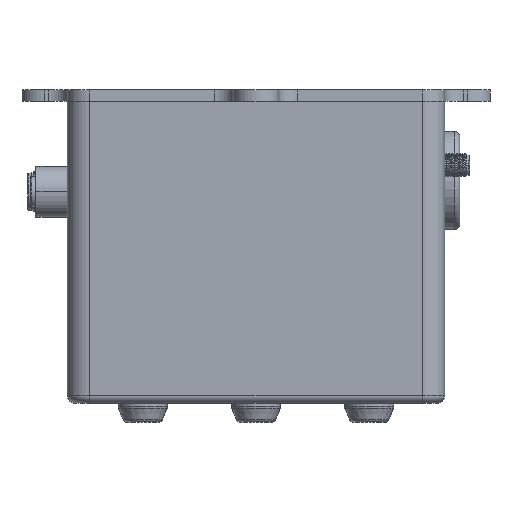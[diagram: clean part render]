
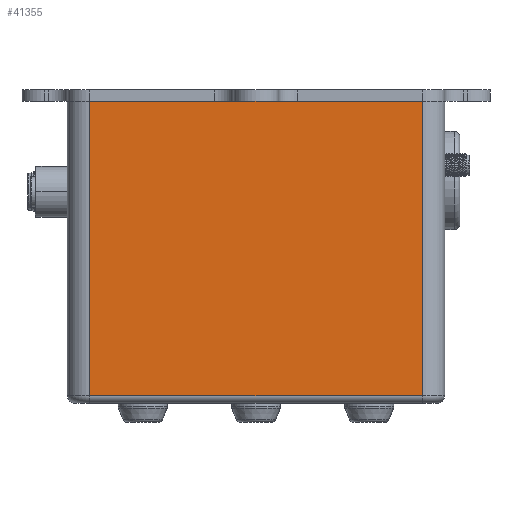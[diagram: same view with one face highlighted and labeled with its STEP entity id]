
A CAD part, front view. The second image highlights one B-rep face of the part: STEP entity #41355.
In plain terms, the highlighted planar face has unit normal (0, -1, 0).
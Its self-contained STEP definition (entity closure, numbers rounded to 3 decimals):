
#41068 = VERTEX_POINT('',#41069);
#41069 = CARTESIAN_POINT('',(6.,0.,80.));
#41076 = EDGE_CURVE('',#41077,#41068,#41079,.T.);
#41077 = VERTEX_POINT('',#41078);
#41078 = CARTESIAN_POINT('',(6.,0.,2.));
#41079 = LINE('',#41080,#41081);
#41080 = CARTESIAN_POINT('',(6.,0.,0.));
#41081 = VECTOR('',#41082,1.);
#41082 = DIRECTION('',(0.,0.,1.));
#41187 = EDGE_CURVE('',#41188,#41068,#41190,.T.);
#41188 = VERTEX_POINT('',#41189);
#41189 = CARTESIAN_POINT('',(94.,0.,80.));
#41190 = LINE('',#41191,#41192);
#41191 = CARTESIAN_POINT('',(94.,0.,80.));
#41192 = VECTOR('',#41193,1.);
#41193 = DIRECTION('',(-1.,0.,0.));
#41355 = ADVANCED_FACE('',(#41356),#41374,.T.);
#41356 = FACE_BOUND('',#41357,.T.);
#41357 = EDGE_LOOP('',(#41358,#41366,#41367,#41368));
#41358 = ORIENTED_EDGE('',*,*,#41359,.T.);
#41359 = EDGE_CURVE('',#41360,#41188,#41362,.T.);
#41360 = VERTEX_POINT('',#41361);
#41361 = CARTESIAN_POINT('',(94.,0.,2.));
#41362 = LINE('',#41363,#41364);
#41363 = CARTESIAN_POINT('',(94.,0.,0.));
#41364 = VECTOR('',#41365,1.);
#41365 = DIRECTION('',(0.,0.,1.));
#41366 = ORIENTED_EDGE('',*,*,#41187,.T.);
#41367 = ORIENTED_EDGE('',*,*,#41076,.F.);
#41368 = ORIENTED_EDGE('',*,*,#41369,.F.);
#41369 = EDGE_CURVE('',#41360,#41077,#41370,.T.);
#41370 = LINE('',#41371,#41372);
#41371 = CARTESIAN_POINT('',(94.,0.,2.));
#41372 = VECTOR('',#41373,1.);
#41373 = DIRECTION('',(-1.,0.,0.));
#41374 = PLANE('',#41375);
#41375 = AXIS2_PLACEMENT_3D('',#41376,#41377,#41378);
#41376 = CARTESIAN_POINT('',(94.,0.,0.));
#41377 = DIRECTION('',(0.,-1.,0.));
#41378 = DIRECTION('',(-1.,0.,0.));
